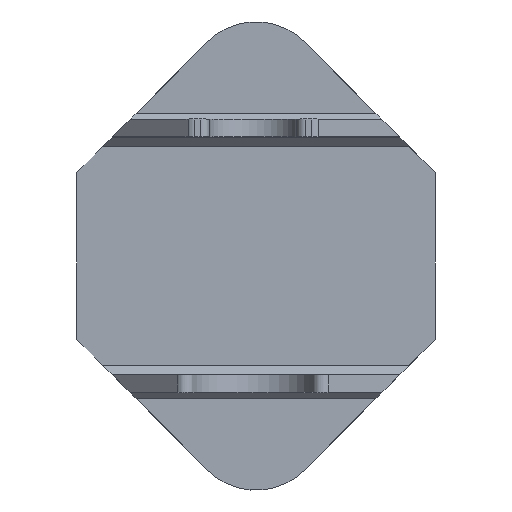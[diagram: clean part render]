
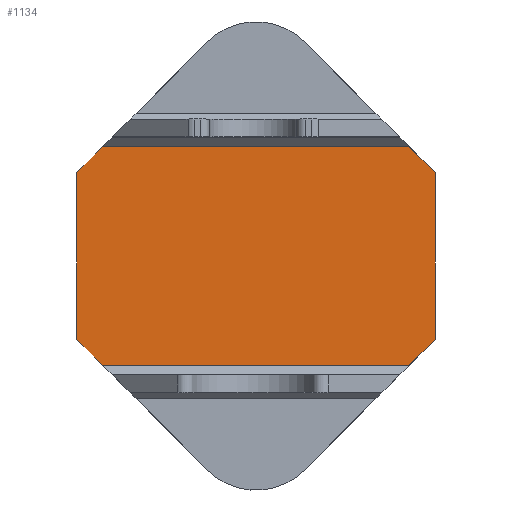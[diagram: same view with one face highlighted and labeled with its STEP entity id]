
A CAD part, top view. The second image highlights one B-rep face of the part: STEP entity #1134.
In plain terms, the highlighted planar face has unit normal (0, 0, 1).
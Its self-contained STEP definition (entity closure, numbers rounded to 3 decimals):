
#166=FACE_OUTER_BOUND('',#243,.T.);
#243=EDGE_LOOP('',(#1029,#1030,#1031,#1032,#1033,#1034,#1035,#1036));
#283=LINE('',#1695,#394);
#294=LINE('',#1717,#405);
#335=LINE('',#1852,#446);
#338=LINE('',#1859,#449);
#342=LINE('',#1865,#453);
#350=LINE('',#1881,#461);
#354=LINE('',#1889,#465);
#355=LINE('',#1891,#466);
#394=VECTOR('',#1353,10.);
#405=VECTOR('',#1370,10.);
#446=VECTOR('',#1527,10.);
#449=VECTOR('',#1534,10.);
#453=VECTOR('',#1540,10.);
#461=VECTOR('',#1558,10.);
#465=VECTOR('',#1566,10.);
#466=VECTOR('',#1569,10.);
#515=VERTEX_POINT('',#1692);
#516=VERTEX_POINT('',#1694);
#523=VERTEX_POINT('',#1714);
#524=VERTEX_POINT('',#1716);
#560=VERTEX_POINT('',#1850);
#562=VERTEX_POINT('',#1858);
#566=VERTEX_POINT('',#1879);
#568=VERTEX_POINT('',#1887);
#628=EDGE_CURVE('',#515,#516,#283,.T.);
#639=EDGE_CURVE('',#523,#524,#294,.T.);
#707=EDGE_CURVE('',#560,#523,#335,.T.);
#710=EDGE_CURVE('',#516,#562,#338,.T.);
#714=EDGE_CURVE('',#562,#560,#342,.T.);
#722=EDGE_CURVE('',#566,#515,#350,.T.);
#726=EDGE_CURVE('',#524,#568,#354,.T.);
#727=EDGE_CURVE('',#568,#566,#355,.T.);
#1029=ORIENTED_EDGE('',*,*,#727,.F.);
#1030=ORIENTED_EDGE('',*,*,#726,.F.);
#1031=ORIENTED_EDGE('',*,*,#639,.F.);
#1032=ORIENTED_EDGE('',*,*,#707,.F.);
#1033=ORIENTED_EDGE('',*,*,#714,.F.);
#1034=ORIENTED_EDGE('',*,*,#710,.F.);
#1035=ORIENTED_EDGE('',*,*,#628,.F.);
#1036=ORIENTED_EDGE('',*,*,#722,.F.);
#1075=PLANE('',#1243);
#1134=ADVANCED_FACE('',(#166),#1075,.T.);
#1243=AXIS2_PLACEMENT_3D('',#1890,#1567,#1568);
#1353=DIRECTION('',(-0.707,-0.707,0.));
#1370=DIRECTION('',(0.707,0.707,0.));
#1527=DIRECTION('',(0.,1.,0.));
#1534=DIRECTION('',(-1.,0.,0.));
#1540=DIRECTION('',(-0.707,0.707,0.));
#1558=DIRECTION('',(0.,-1.,0.));
#1566=DIRECTION('',(1.,0.,0.));
#1567=DIRECTION('center_axis',(0.,0.,1.));
#1568=DIRECTION('ref_axis',(1.,0.,0.));
#1569=DIRECTION('',(0.707,-0.707,0.));
#1692=CARTESIAN_POINT('',(30.686,-14.,-21.186));
#1694=CARTESIAN_POINT('',(26.186,-18.5,-21.186));
#1695=CARTESIAN_POINT('',(28.314,-16.371,-21.186));
#1714=CARTESIAN_POINT('',(-29.686,14.,-21.186));
#1716=CARTESIAN_POINT('',(-25.186,18.5,-21.186));
#1717=CARTESIAN_POINT('',(-38.936,4.75,-21.186));
#1850=CARTESIAN_POINT('',(-29.686,-14.,-21.186));
#1852=CARTESIAN_POINT('',(-29.686,-10.872,-21.186));
#1858=CARTESIAN_POINT('',(-25.186,-18.5,-21.186));
#1859=CARTESIAN_POINT('',(-20.843,-18.5,-21.186));
#1865=CARTESIAN_POINT('',(-28.936,-14.75,-21.186));
#1879=CARTESIAN_POINT('',(30.686,14.,-21.186));
#1881=CARTESIAN_POINT('',(30.686,-10.303,-21.186));
#1887=CARTESIAN_POINT('',(26.186,18.5,-21.186));
#1889=CARTESIAN_POINT('',(-20.843,18.5,-21.186));
#1890=CARTESIAN_POINT('Origin',(-41.686,-20.,-21.186));
#1891=CARTESIAN_POINT('',(18.843,25.843,-21.186));
